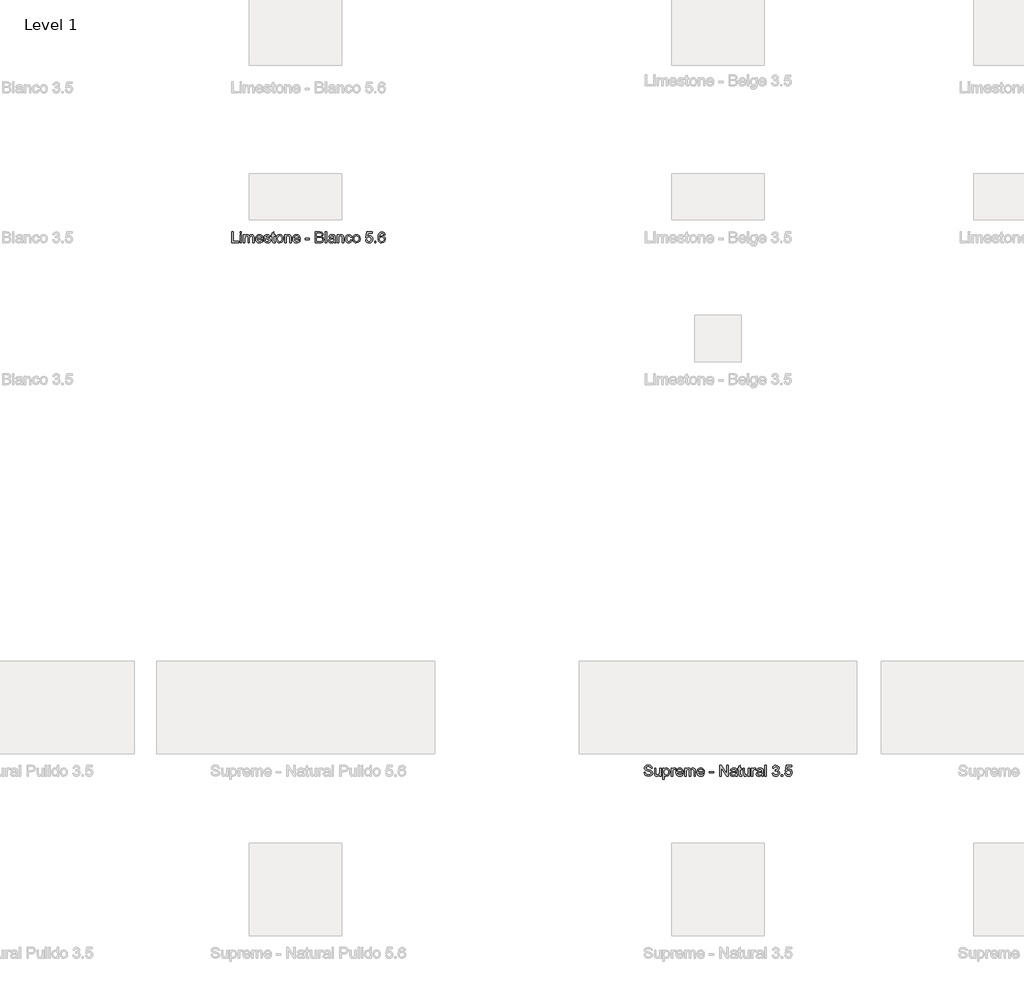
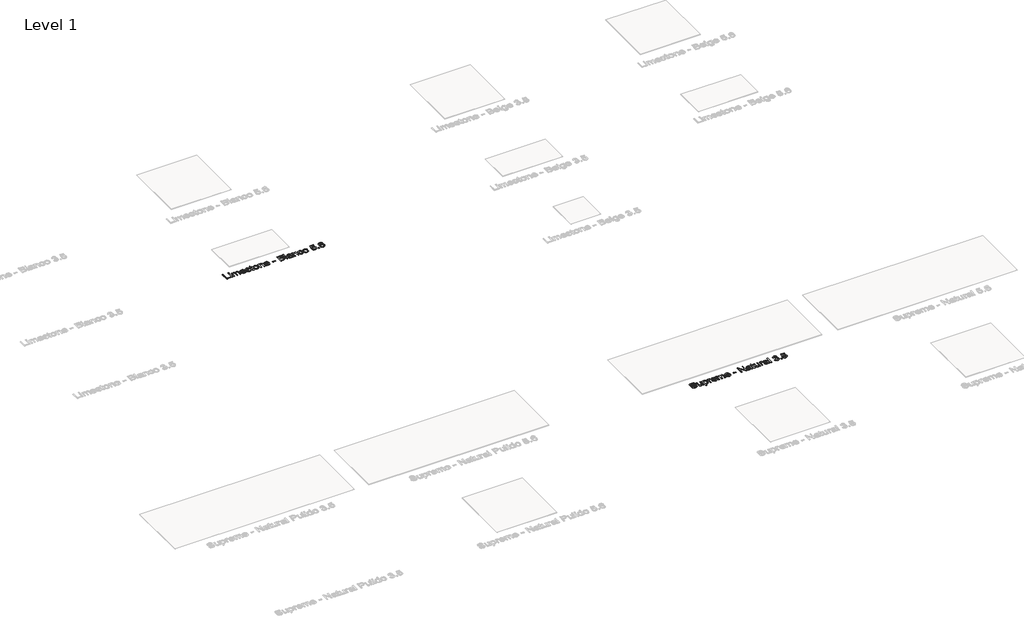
# One storey, part 65 of 80: 2 proxies.
"""IFC4 building model written with IfcOpenShell, lengths in millimetres."""

from ifc_helpers import new_model, si_unit, origin, origin_with_axes, place, context, project, spatial, polyline, outline, extrude, element, save

model = new_model("IFC4")

# Units and contexts
model_context = context("Model", 3, world=origin())
ifc_project = project(units=[si_unit("LENGTHUNIT", "METRE", prefix="MILLI")], contexts=[model_context])

# Site, building, storey
site = spatial("IfcSite", under=ifc_project)
building = spatial("IfcBuilding", under=site)
storey = spatial("IfcBuildingStorey", under=building, Name="Level 1", Elevation=0.0)

# Proxies
placement = place(None, origin())
element("IfcBuildingElementProxy", 1, Name="24\" Arial", ObjectType="24\" Arial", at=placement, inside=storey, context=model_context, shape_type="SweptSolid", body=[
    extrude(outline(polyline([(8085.846969, 7106.868207), (8085.846969, 7225.0220532), (8100.6161998, 7225.0220532), (8100.6161998, 7121.6374378), (8159.6931229, 7121.6374378), (8159.6931229, 7106.868207), (8085.846969, 7106.868207)])), origin_with_axes(), (0.0, 0.0, 1.0), 2.0),
    extrude(outline(polyline([(8174.4623536, 7210.2528224), (8174.4623536, 7225.0220532), (8189.2315844, 7225.0220532), (8189.2315844, 7210.2528224), (8174.4623536, 7210.2528224)])), origin_with_axes(), (0.0, 0.0, 1.0), 2.0),
    extrude(outline(polyline([(8174.4623536, 7106.868207), (8174.4623536, 7193.6374378), (8189.2315844, 7193.6374378), (8189.2315844, 7106.868207), (8174.4623536, 7106.868207)])), origin_with_axes(), (0.0, 0.0, 1.0), 2.0),
    extrude(outline(polyline([(8211.3854306, 7106.868207), (8211.3854306, 7193.6374378), (8226.1546613, 7193.6374378), (8226.1546613, 7179.3585916), (8236.3085075, 7191.055707), (8250.7604306, 7195.4835916), (8265.5585075, 7190.9691686), (8273.6931229, 7178.3201301), (8285.2171613, 7191.1927263), (8299.7700459, 7195.4835916), (8310.8722094, 7193.6987359), (8319.0825459, 7188.3441686), (8324.1558633, 7179.275659), (8325.846969, 7166.3489763), (8325.846969, 7106.868207), (8311.0777383, 7106.868207), (8311.0777383, 7160.0028224), (8309.7075459, 7172.3345532), (8304.7460075, 7178.4066686), (8296.3085075, 7180.7143609), (8288.3073056, 7179.2359955), (8281.784469, 7174.8008993), (8277.4467286, 7167.1061878), (8276.0008152, 7155.8489763), (8276.0008152, 7106.868207), (8261.2315844, 7106.868207), (8261.2315844, 7161.6470532), (8257.8133152, 7175.9547455), (8246.6065844, 7180.7143609), (8235.6738921, 7177.541284), (8228.4046613, 7168.2528224), (8226.1546613, 7150.6278224), (8226.1546613, 7106.868207), (8211.3854306, 7106.868207)])), origin_with_axes(), (0.0, 0.0, 1.0), 2.0),
    extrude(outline(polyline([(8408.7508152, 7132.7143609), (8423.2315844, 7130.868207), (8418.0140363, 7119.9571493), (8409.6883152, 7111.8008993), (8398.4419209, 7106.7167647), (8384.4623536, 7105.0220532), (8367.1330267, 7107.946332), (8353.7988921, 7116.7191686), (8345.2964883, 7130.7708513), (8342.4623536, 7149.5316686), (8345.3253344, 7168.9234955), (8353.9142767, 7183.4258993), (8367.0681229, 7192.4691686), (8383.6258152, 7195.4835916), (8399.6678825, 7192.4763801), (8412.4863921, 7183.4547455), (8420.8914402, 7168.9811878), (8423.6931229, 7149.618207), (8423.6065844, 7145.6374378), (8357.2315844, 7145.6374378), (8359.7880748, 7134.5821493), (8365.7267767, 7126.4547455), (8374.2976902, 7121.4571493), (8384.7508152, 7119.791284), (8399.2315844, 7122.8778224), (8408.7508152, 7132.7143609)]), holes=[polyline([(8357.2315844, 7160.4066686), (8408.9238921, 7160.4066686), (8403.0104306, 7173.791284), (8394.3998536, 7178.9835916), (8383.5681229, 7180.7143609), (8365.3806229, 7175.1903224), (8359.6582671, 7168.7323897), (8357.2315844, 7160.4066686)])]), origin_with_axes(), (0.0, 0.0, 1.0), 2.0),
    extrude(outline(polyline([(8432.9238921, 7132.7143609), (8447.6931229, 7134.5605147), (8454.5296613, 7123.5989763), (8470.1931229, 7119.791284), (8485.2508152, 7123.2816686), (8490.1546613, 7131.4739763), (8485.221969, 7138.1085916), (8470.0200459, 7142.3201301), (8447.7796613, 7149.5460916), (8438.0729306, 7157.9835916), (8434.7700459, 7169.8970532), (8437.4238921, 7180.9018609), (8444.6642767, 7189.3105147), (8454.0536998, 7193.680707), (8466.7604306, 7195.4835916), (8484.7315844, 7192.5845532), (8496.1546613, 7184.7383993), (8501.2315844, 7171.4835916), (8486.4623536, 7169.6374378), (8480.909469, 7177.7864763), (8467.9142767, 7180.7143609), (8453.7796613, 7177.916284), (8449.5392767, 7171.3970532), (8451.2988921, 7167.0989763), (8456.8085075, 7163.8393609), (8469.5296613, 7160.6951301), (8491.2075459, 7153.743207), (8501.2748536, 7145.868207), (8504.9238921, 7133.0316686), (8500.6402383, 7118.8970532), (8488.2796613, 7108.6422455), (8469.9911998, 7105.0220532), (8455.0993729, 7106.7672455), (8444.2315844, 7112.0028224), (8436.9767767, 7120.6710916), (8432.9238921, 7132.7143609)])), origin_with_axes(), (0.0, 0.0, 1.0), 2.0),
    extrude(outline(polyline([(8552.9238921, 7119.1855147), (8554.7700459, 7106.4355147), (8543.721969, 7105.0220532), (8531.346969, 7107.4739763), (8525.1738921, 7113.9066686), (8523.3854306, 7130.666284), (8523.3854306, 7178.868207), (8512.3085075, 7178.868207), (8512.3085075, 7193.6374378), (8523.3854306, 7193.6374378), (8523.3854306, 7214.7239763), (8538.1546613, 7223.4066686), (8538.1546613, 7193.6374378), (8552.9238921, 7193.6374378), (8552.9238921, 7178.868207), (8538.1546613, 7178.868207), (8538.1546613, 7131.0989763), (8538.9335075, 7123.4835916), (8541.4575459, 7120.7864763), (8546.4911998, 7119.791284), (8552.9238921, 7119.1855147)])), origin_with_axes(), (0.0, 0.0, 1.0), 2.0),
    extrude(outline(polyline([(8564.0008152, 7150.2528224), (8567.1955267, 7171.1734955), (8576.7796613, 7185.8778224), (8588.6210075, 7193.0821493), (8602.7988921, 7195.4835916), (8618.3145171, 7192.5593128), (8630.7075459, 7183.7864763), (8638.831344, 7169.8573897), (8641.5392767, 7151.4643609), (8636.7508152, 7125.1855147), (8622.8036998, 7110.3153224), (8602.7988921, 7105.0220532), (8587.0957671, 7107.9355147), (8574.7171613, 7116.6758993), (8566.6799017, 7130.8970532), (8564.0008152, 7150.2528224)]), holes=[polyline([(8578.7700459, 7150.2816686), (8580.4791806, 7136.915082), (8585.6065844, 7127.3922455), (8593.3229306, 7121.6915243), (8602.7988921, 7119.791284), (8612.2315844, 7121.7023416), (8619.9335075, 7127.4355147), (8625.0609113, 7137.0845532), (8626.7700459, 7150.743207), (8625.050094, 7163.7203705), (8619.8902383, 7173.1133993), (8612.1774979, 7178.8141205), (8602.7988921, 7180.7143609), (8593.3229306, 7178.821332), (8585.6065844, 7173.1422455), (8580.4791806, 7163.6410436), (8578.7700459, 7150.2816686)])]), origin_with_axes(), (0.0, 0.0, 1.0), 2.0),
    extrude(outline(polyline([(8658.1546613, 7106.868207), (8658.1546613, 7193.6374378), (8672.9238921, 7193.6374378), (8672.9238921, 7181.5220532), (8684.2171613, 7191.993207), (8699.6354306, 7195.4835916), (8713.5825459, 7192.6710916), (8723.1017767, 7185.2864763), (8727.5296613, 7174.4258993), (8728.3085075, 7160.1470532), (8728.3085075, 7106.868207), (8713.5392767, 7106.868207), (8713.5392767, 7158.1566686), (8711.8373536, 7171.2239763), (8705.8229306, 7178.1326301), (8695.6835075, 7180.7143609), (8679.659469, 7174.916284), (8674.6077863, 7166.5148416), (8672.9238921, 7152.9066686), (8672.9238921, 7106.868207), (8658.1546613, 7106.868207)])), origin_with_axes(), (0.0, 0.0, 1.0), 2.0),
    extrude(outline(polyline([(8809.3661998, 7132.7143609), (8823.846969, 7130.868207), (8818.6294209, 7119.9571493), (8810.3036998, 7111.8008993), (8799.0573056, 7106.7167647), (8785.0777383, 7105.0220532), (8767.7484113, 7107.946332), (8754.4142767, 7116.7191686), (8745.9118729, 7130.7708513), (8743.0777383, 7149.5316686), (8745.940719, 7168.9234955), (8754.5296613, 7183.4258993), (8767.6835075, 7192.4691686), (8784.2411998, 7195.4835916), (8800.2832671, 7192.4763801), (8813.1017767, 7183.4547455), (8821.5068248, 7168.9811878), (8824.3085075, 7149.618207), (8824.221969, 7145.6374378), (8757.846969, 7145.6374378), (8760.4034594, 7134.5821493), (8766.3421613, 7126.4547455), (8774.9130748, 7121.4571493), (8785.3661998, 7119.791284), (8799.846969, 7122.8778224), (8809.3661998, 7132.7143609)]), holes=[polyline([(8757.846969, 7160.4066686), (8809.5392767, 7160.4066686), (8803.6258152, 7173.791284), (8795.0152383, 7178.9835916), (8784.1835075, 7180.7143609), (8765.9960075, 7175.1903224), (8760.2736517, 7168.7323897), (8757.846969, 7160.4066686)])]), origin_with_axes(), (0.0, 0.0, 1.0), 2.0),
    extrude(outline(polyline([(8877.846969, 7141.9451301), (8877.846969, 7156.7143609), (8924.0008152, 7156.7143609), (8924.0008152, 7141.9451301), (8877.846969, 7141.9451301)])), origin_with_axes(), (0.0, 0.0, 1.0), 2.0),
    extrude(outline(polyline([(8988.6161998, 7106.868207), (8988.6161998, 7225.0220532), (9033.7027383, 7225.0220532), (9055.784469, 7221.5460916), (9068.8229306, 7210.8585916), (9073.5392767, 7195.743207), (9069.5729306, 7181.9403224), (9057.5873536, 7171.4835916), (9072.1402383, 7160.4643609), (9077.2315844, 7142.0893609), (9073.7556229, 7126.2095532), (9065.1450459, 7114.9018609), (9052.2940844, 7108.9018609), (9033.3565844, 7106.868207), (8988.6161998, 7106.868207)]), holes=[polyline([(9003.3854306, 7121.6374378), (9033.6738921, 7121.6374378), (9044.6354306, 7122.2143609), (9053.909469, 7125.430707), (9060.0536998, 7131.993207), (9062.4623536, 7141.9451301), (9059.6354306, 7153.4258993), (9050.4767767, 7160.2768609), (9032.2315844, 7162.2528224), (9003.3854306, 7162.2528224), (9003.3854306, 7121.6374378)]), polyline([(9003.3854306, 7177.0220532), (9030.3565844, 7177.0220532), (9046.1065844, 7178.291284), (9055.5825459, 7183.7576301), (9058.7700459, 7193.3778224), (9055.7988921, 7203.0124378), (9047.2892767, 7208.7095532), (9028.3085075, 7210.2528224), (9003.3854306, 7210.2528224), (9003.3854306, 7177.0220532)])]), origin_with_axes(), (0.0, 0.0, 1.0), 2.0),
    extrude(outline(polyline([(9095.6931229, 7106.868207), (9095.6931229, 7225.0220532), (9110.4623536, 7225.0220532), (9110.4623536, 7106.868207), (9095.6931229, 7106.868207)])), origin_with_axes(), (0.0, 0.0, 1.0), 2.0),
    extrude(outline(polyline([(9188.0008152, 7117.9451301), (9173.6786998, 7107.9355147), (9157.8565844, 7105.0220532), (9145.5140363, 7106.774457), (9136.409469, 7112.0316686), (9130.7952863, 7120.0148416), (9128.9238921, 7129.9451301), (9131.7508152, 7141.6278224), (9139.1786998, 7150.1085916), (9149.5200459, 7154.9547455), (9162.2988921, 7157.1758993), (9187.9142767, 7162.2528224), (9188.0008152, 7165.541284), (9183.9335075, 7176.4451301), (9167.6065844, 7180.7143609), (9152.6642767, 7177.8730147), (9145.5392767, 7167.791284), (9130.7700459, 7169.6374378), (9137.159469, 7184.0605147), (9150.0248536, 7192.5124378), (9169.5104306, 7195.4835916), (9187.409469, 7192.8585916), (9197.5200459, 7186.2672455), (9202.0488921, 7176.243207), (9202.7700459, 7163.3201301), (9202.7700459, 7144.9451301), (9203.5200459, 7119.2864763), (9206.4623536, 7106.868207), (9191.6931229, 7106.868207), (9188.0008152, 7117.9451301)]), holes=[polyline([(9188.0008152, 7147.4835916), (9164.1738921, 7142.9547455), (9151.4671613, 7140.5605147), (9145.7123536, 7136.666284), (9143.6931229, 7130.9835916), (9148.0921613, 7122.993207), (9161.0008152, 7119.791284), (9175.9431229, 7123.3249378), (9185.5777383, 7131.8778224), (9187.9142767, 7143.3008993), (9188.0008152, 7147.4835916)])]), origin_with_axes(), (0.0, 0.0, 1.0), 2.0),
    extrude(outline(polyline([(9223.0777383, 7106.868207), (9223.0777383, 7193.6374378), (9237.846969, 7193.6374378), (9237.846969, 7181.5220532), (9249.1402383, 7191.993207), (9264.5585075, 7195.4835916), (9278.5056229, 7192.6710916), (9288.0248536, 7185.2864763), (9292.4527383, 7174.4258993), (9293.2315844, 7160.1470532), (9293.2315844, 7106.868207), (9278.4623536, 7106.868207), (9278.4623536, 7158.1566686), (9276.7604306, 7171.2239763), (9270.7460075, 7178.1326301), (9260.6065844, 7180.7143609), (9244.5825459, 7174.916284), (9239.5308633, 7166.5148416), (9237.846969, 7152.9066686), (9237.846969, 7106.868207), (9223.0777383, 7106.868207)])), origin_with_axes(), (0.0, 0.0, 1.0), 2.0),
    extrude(outline(polyline([(9368.9238921, 7138.2528224), (9383.6931229, 7136.4066686), (9379.5753344, 7123.2708513), (9371.8373536, 7113.3441686), (9361.2075459, 7107.102582), (9348.4142767, 7105.0220532), (9332.7039402, 7107.9246974), (9320.4190844, 7116.6326301), (9312.4899979, 7130.7636397), (9309.846969, 7149.9355147), (9314.3613921, 7174.4691686), (9320.0585075, 7183.6674859), (9328.1210075, 7190.2335916), (9348.2123536, 7195.4835916), (9360.6919209, 7193.680707), (9370.6690844, 7188.2720532), (9377.8265363, 7179.5460916), (9381.846969, 7167.791284), (9367.0777383, 7165.9451301), (9360.2267767, 7177.0076301), (9348.3277383, 7180.7143609), (9338.7832671, 7178.8898416), (9331.2075459, 7173.416284), (9326.2640363, 7163.9980147), (9324.6161998, 7150.3393609), (9326.2279786, 7136.4968128), (9331.0633152, 7127.0460916), (9338.5020171, 7121.6049859), (9347.9238921, 7119.791284), (9361.8421613, 7124.3201301), (9368.9238921, 7138.2528224)])), origin_with_axes(), (0.0, 0.0, 1.0), 2.0),
    extrude(outline(polyline([(9392.9238921, 7150.2528224), (9396.1186036, 7171.1734955), (9405.7027383, 7185.8778224), (9417.5440844, 7193.0821493), (9431.721969, 7195.4835916), (9447.237594, 7192.5593128), (9459.6306229, 7183.7864763), (9467.7544209, 7169.8573897), (9470.4623536, 7151.4643609), (9465.6738921, 7125.1855147), (9451.7267767, 7110.3153224), (9431.721969, 7105.0220532), (9416.018844, 7107.9355147), (9403.6402383, 7116.6758993), (9395.6029786, 7130.8970532), (9392.9238921, 7150.2528224)]), holes=[polyline([(9407.6931229, 7150.2816686), (9409.4022575, 7136.915082), (9414.5296613, 7127.3922455), (9422.2460075, 7121.6915243), (9431.721969, 7119.791284), (9441.1546613, 7121.7023416), (9448.8565844, 7127.4355147), (9453.9839883, 7137.0845532), (9455.6931229, 7150.743207), (9453.9731709, 7163.7203705), (9448.8133152, 7173.1133993), (9441.1005748, 7178.8141205), (9431.721969, 7180.7143609), (9422.2460075, 7178.821332), (9414.5296613, 7173.1422455), (9409.4022575, 7163.6410436), (9407.6931229, 7150.2816686)])]), origin_with_axes(), (0.0, 0.0, 1.0), 2.0),
    extrude(outline(polyline([(9529.5392767, 7138.2528224), (9544.3085075, 7140.0989763), (9551.7508152, 7124.8826301), (9567.1835075, 7119.791284), (9577.7700459, 7121.5617166), (9585.7027383, 7126.8730147), (9590.6570652, 7135.1121974), (9592.3085075, 7145.666284), (9590.7616325, 7155.603784), (9586.1210075, 7163.2047455), (9578.3505748, 7168.0292647), (9567.4142767, 7169.6374378), (9554.4479306, 7167.0701301), (9546.1546613, 7160.4066686), (9531.3854306, 7162.2528224), (9544.3085075, 7223.1758993), (9601.5392767, 7223.1758993), (9601.5392767, 7208.4066686), (9556.2508152, 7208.4066686), (9549.9335075, 7175.868207), (9560.4839883, 7182.2720532), (9571.5392767, 7184.4066686), (9585.3385556, 7181.760034), (9596.7940844, 7173.8201301), (9604.5068248, 7161.7191686), (9607.0777383, 7146.5893609), (9604.7628344, 7131.8201301), (9597.8181229, 7119.1855147), (9584.5200459, 7108.5629186), (9567.1258152, 7105.0220532), (9552.6198056, 7107.2972936), (9541.0633152, 7114.1230147), (9533.1414402, 7124.7059474), (9529.5392767, 7138.2528224)])), origin_with_axes(), (0.0, 0.0, 1.0), 2.0),
    extrude(outline(polyline([(9627.3854306, 7106.868207), (9627.3854306, 7121.6374378), (9642.1546613, 7121.6374378), (9642.1546613, 7106.868207), (9627.3854306, 7106.868207)])), origin_with_axes(), (0.0, 0.0, 1.0), 2.0),
    extrude(outline(polyline([(9741.846969, 7193.6374378), (9727.0777383, 7191.791284), (9721.4815844, 7204.1085916), (9714.7820652, 7208.7167647), (9706.6835075, 7210.2528224), (9693.3565844, 7206.6758993), (9683.2748536, 7193.2480147), (9679.0777383, 7166.9258993), (9692.1017767, 7178.7095532), (9708.2411998, 7182.5605147), (9721.8854306, 7179.9283032), (9733.3373536, 7172.0316686), (9741.1041806, 7159.9667647), (9743.6931229, 7144.8297455), (9738.8181229, 7124.4499378), (9725.4046613, 7110.0268609), (9706.0488921, 7105.0220532), (9689.2928825, 7108.3393609), (9675.9479306, 7118.291284), (9667.2183633, 7135.8585916), (9664.3085075, 7162.0220532), (9667.5392767, 7191.4379186), (9677.2315844, 7211.5508993), (9690.4647575, 7221.6542647), (9707.6065844, 7225.0220532), (9720.565719, 7222.9379186), (9730.9431229, 7216.6855147), (9738.2123536, 7206.7552263), (9741.846969, 7193.6374378)]), holes=[polyline([(9679.0777383, 7145.0605147), (9682.4960075, 7132.2672455), (9691.5825459, 7122.978784), (9704.8950459, 7119.791284), (9714.6414402, 7121.4427263), (9722.3036998, 7126.3970532), (9727.268844, 7134.1855147), (9728.9238921, 7144.3393609), (9727.2904786, 7154.0857551), (9722.3902383, 7161.5172455), (9714.5981709, 7166.2227743), (9704.2892767, 7167.791284), (9694.5573056, 7166.2227743), (9686.4190844, 7161.5172455), (9680.9130748, 7154.2660436), (9679.0777383, 7145.0605147)])]), origin_with_axes(), (0.0, 0.0, 1.0), 2.0),
])
element("IfcBuildingElementProxy", 2, Name="24\" Arial", ObjectType="24\" Arial", at=placement, inside=storey, context=model_context, shape_type="SweptSolid", body=[
    extrude(outline(polyline([(12536.0008152, 1389.3439467), (12550.7700459, 1389.3439467), (12555.5296613, 1374.5602928), (12567.1546613, 1365.214139), (12584.8661998, 1361.651639), (12600.2988921, 1364.3487544), (12610.2652383, 1371.7622159), (12613.5392767, 1381.6708697), (12611.0873536, 1390.8872159), (12601.0488921, 1397.5939467), (12579.5440844, 1403.2333697), (12556.3950459, 1410.5170236), (12543.8325459, 1421.5074082), (12539.6931229, 1436.1901005), (12544.8133152, 1452.9064467), (12559.7700459, 1464.7045236), (12581.6642767, 1468.728562), (12605.0296613, 1464.5170236), (12620.6065844, 1452.1420236), (12626.4623536, 1433.651639), (12611.6931229, 1433.651639), (12608.9815844, 1442.464139), (12603.3277383, 1448.8247159), (12594.4936036, 1452.6756774), (12582.2411998, 1453.9593313), (12569.7003344, 1452.6901005), (12561.096969, 1448.8824082), (12556.1210075, 1443.2790428), (12554.4623536, 1436.6227928), (12559.1642767, 1426.3824082), (12583.2796613, 1418.1324082), (12609.4142767, 1410.7189467), (12623.7075459, 1398.7477928), (12628.3085075, 1382.0458697), (12623.0152383, 1364.3776005), (12607.784469, 1351.4833697), (12585.4431229, 1346.8824082), (12559.0633152, 1351.8439467), (12549.5765363, 1358.0602928), (12542.3758152, 1366.7862544), (12536.0008152, 1389.3439467)])), origin_with_axes(), (0.0, 0.0, 1.0), 2.0),
    extrude(outline(polyline([(12704.0008152, 1348.728562), (12704.0008152, 1363.6420236), (12692.4335075, 1351.072312), (12677.346969, 1346.8824082), (12663.4575459, 1349.8247159), (12653.8806229, 1357.2093313), (12649.4815844, 1368.0843313), (12648.6161998, 1381.8151005), (12648.6161998, 1435.4977928), (12663.3854306, 1435.4977928), (12663.3854306, 1388.7670236), (12664.2796613, 1373.7093313), (12670.1210075, 1364.8679851), (12681.1258152, 1361.651639), (12693.4575459, 1364.9401005), (12701.6065844, 1373.8968313), (12704.0008152, 1390.353562), (12704.0008152, 1435.4977928), (12718.7700459, 1435.4977928), (12718.7700459, 1348.728562), (12704.0008152, 1348.728562)])), origin_with_axes(), (0.0, 0.0, 1.0), 2.0),
    extrude(outline(polyline([(12739.0777383, 1315.4977928), (12739.0777383, 1435.4977928), (12753.846969, 1435.4977928), (12753.846969, 1421.0170236), (12764.0585075, 1433.2622159), (12777.846969, 1437.3439467), (12796.5681229, 1431.6324082), (12808.7988921, 1415.5362544), (12812.9238921, 1392.776639), (12808.2652383, 1368.8487544), (12802.5536998, 1359.4593313), (12794.7363921, 1352.5506774), (12776.0585075, 1346.8824082), (12763.2075459, 1350.6756774), (12753.846969, 1360.2670236), (12753.846969, 1315.4977928), (12739.0777383, 1315.4977928)]), holes=[polyline([(12753.846969, 1391.4208697), (12755.4443248, 1378.1804851), (12760.2363921, 1368.9208697), (12767.3073056, 1363.4689467), (12775.7411998, 1361.651639), (12784.3121133, 1363.5338505), (12791.5633152, 1369.1804851), (12796.5068248, 1378.7790428), (12798.1546613, 1392.5170236), (12796.5464883, 1405.6852928), (12791.721969, 1415.0747159), (12784.6618729, 1420.6997159), (12776.346969, 1422.5747159), (12767.9996133, 1420.5807255), (12760.6690844, 1414.5987544), (12755.5524979, 1404.8163024), (12753.846969, 1391.4208697)])]), origin_with_axes(), (0.0, 0.0, 1.0), 2.0),
    extrude(outline(polyline([(12829.5392767, 1348.728562), (12829.5392767, 1435.4977928), (12842.4623536, 1435.4977928), (12842.4623536, 1422.6612544), (12851.6354306, 1434.4881774), (12860.8661998, 1437.3439467), (12875.6931229, 1432.7862544), (12870.7604306, 1419.5458697), (12860.3758152, 1422.5747159), (12852.0248536, 1419.6612544), (12846.7027383, 1411.5843313), (12844.3085075, 1394.3343313), (12844.3085075, 1348.728562), (12829.5392767, 1348.728562)])), origin_with_axes(), (0.0, 0.0, 1.0), 2.0),
    extrude(outline(polyline([(12945.6738921, 1374.5747159), (12960.1546613, 1372.728562), (12954.9371133, 1361.8175044), (12946.6113921, 1353.6612544), (12935.3649979, 1348.5771197), (12921.3854306, 1346.8824082), (12904.0561036, 1349.806687), (12890.721969, 1358.5795236), (12882.2195652, 1372.6312063), (12879.3854306, 1391.3920236), (12882.2484113, 1410.7838505), (12890.8373536, 1425.2862544), (12903.9911998, 1434.3295236), (12920.5488921, 1437.3439467), (12936.5909594, 1434.3367351), (12949.409469, 1425.3151005), (12957.8145171, 1410.8415428), (12960.6161998, 1391.478562), (12960.5296613, 1387.4977928), (12894.1546613, 1387.4977928), (12896.7111517, 1376.4425044), (12902.6498536, 1368.3151005), (12911.2207671, 1363.3175044), (12921.6738921, 1361.651639), (12936.1546613, 1364.7381774), (12945.6738921, 1374.5747159)]), holes=[polyline([(12894.1546613, 1402.2670236), (12945.846969, 1402.2670236), (12939.9335075, 1415.651639), (12931.3229306, 1420.8439467), (12920.4911998, 1422.5747159), (12902.3036998, 1417.0506774), (12896.581344, 1410.5927447), (12894.1546613, 1402.2670236)])]), origin_with_axes(), (0.0, 0.0, 1.0), 2.0),
    extrude(outline(polyline([(12975.3854306, 1348.728562), (12975.3854306, 1435.4977928), (12990.1546613, 1435.4977928), (12990.1546613, 1421.2189467), (13000.3085075, 1432.916062), (13014.7604306, 1437.3439467), (13029.5585075, 1432.8295236), (13037.6931229, 1420.1804851), (13049.2171613, 1433.0530813), (13063.7700459, 1437.3439467), (13074.8722094, 1435.5590909), (13083.0825459, 1430.2045236), (13088.1558633, 1421.136014), (13089.846969, 1408.2093313), (13089.846969, 1348.728562), (13075.0777383, 1348.728562), (13075.0777383, 1401.8631774), (13073.7075459, 1414.1949082), (13068.7460075, 1420.2670236), (13060.3085075, 1422.5747159), (13052.3073056, 1421.0963505), (13045.784469, 1416.6612544), (13041.4467286, 1408.9665428), (13040.0008152, 1397.7093313), (13040.0008152, 1348.728562), (13025.2315844, 1348.728562), (13025.2315844, 1403.5074082), (13021.8133152, 1417.8151005), (13010.6065844, 1422.5747159), (12999.6738921, 1419.401639), (12992.4046613, 1410.1131774), (12990.1546613, 1392.4881774), (12990.1546613, 1348.728562), (12975.3854306, 1348.728562)])), origin_with_axes(), (0.0, 0.0, 1.0), 2.0),
    extrude(outline(polyline([(13172.7508152, 1374.5747159), (13187.2315844, 1372.728562), (13182.0140363, 1361.8175044), (13173.6883152, 1353.6612544), (13162.4419209, 1348.5771197), (13148.4623536, 1346.8824082), (13131.1330267, 1349.806687), (13117.7988921, 1358.5795236), (13109.2964883, 1372.6312063), (13106.4623536, 1391.3920236), (13109.3253344, 1410.7838505), (13117.9142767, 1425.2862544), (13131.0681229, 1434.3295236), (13147.6258152, 1437.3439467), (13163.6678825, 1434.3367351), (13176.4863921, 1425.3151005), (13184.8914402, 1410.8415428), (13187.6931229, 1391.478562), (13187.6065844, 1387.4977928), (13121.2315844, 1387.4977928), (13123.7880748, 1376.4425044), (13129.7267767, 1368.3151005), (13138.2976902, 1363.3175044), (13148.7508152, 1361.651639), (13163.2315844, 1364.7381774), (13172.7508152, 1374.5747159)]), holes=[polyline([(13121.2315844, 1402.2670236), (13172.9238921, 1402.2670236), (13167.0104306, 1415.651639), (13158.3998536, 1420.8439467), (13147.5681229, 1422.5747159), (13129.3806229, 1417.0506774), (13123.6582671, 1410.5927447), (13121.2315844, 1402.2670236)])]), origin_with_axes(), (0.0, 0.0, 1.0), 2.0),
    extrude(outline(polyline([(13241.2315844, 1383.8054851), (13241.2315844, 1398.5747159), (13287.3854306, 1398.5747159), (13287.3854306, 1383.8054851), (13241.2315844, 1383.8054851)])), origin_with_axes(), (0.0, 0.0, 1.0), 2.0),
    extrude(outline(polyline([(13352.0008152, 1348.728562), (13352.0008152, 1466.8824082), (13367.8085075, 1466.8824082), (13429.5392767, 1373.276639), (13429.5392767, 1466.8824082), (13444.3085075, 1466.8824082), (13444.3085075, 1348.728562), (13428.5008152, 1348.728562), (13366.7700459, 1442.3631774), (13366.7700459, 1348.728562), (13352.0008152, 1348.728562)])), origin_with_axes(), (0.0, 0.0, 1.0), 2.0),
    extrude(outline(polyline([(13523.6931229, 1359.8054851), (13509.3710075, 1349.7958697), (13493.5488921, 1346.8824082), (13481.206344, 1348.634812), (13472.1017767, 1353.8920236), (13466.487594, 1361.8751967), (13464.6161998, 1371.8054851), (13467.4431229, 1383.4881774), (13474.8710075, 1391.9689467), (13485.2123536, 1396.8151005), (13497.9911998, 1399.0362544), (13523.6065844, 1404.1131774), (13523.6931229, 1407.401639), (13519.6258152, 1418.3054851), (13503.2988921, 1422.5747159), (13488.3565844, 1419.7333697), (13481.2315844, 1409.651639), (13466.4623536, 1411.4977928), (13472.8517767, 1425.9208697), (13485.7171613, 1434.3727928), (13505.2027383, 1437.3439467), (13523.1017767, 1434.7189467), (13533.2123536, 1428.1276005), (13537.7411998, 1418.103562), (13538.4623536, 1405.1804851), (13538.4623536, 1386.8054851), (13539.2123536, 1361.1468313), (13542.1546613, 1348.728562), (13527.3854306, 1348.728562), (13523.6931229, 1359.8054851)]), holes=[polyline([(13523.6931229, 1389.3439467), (13499.8661998, 1384.8151005), (13487.159469, 1382.4208697), (13481.4046613, 1378.526639), (13479.3854306, 1372.8439467), (13483.784469, 1364.853562), (13496.6931229, 1361.651639), (13511.6354306, 1365.1852928), (13521.2700459, 1373.7381774), (13523.6065844, 1385.1612544), (13523.6931229, 1389.3439467)])]), origin_with_axes(), (0.0, 0.0, 1.0), 2.0),
    extrude(outline(polyline([(13590.1546613, 1361.0458697), (13592.0008152, 1348.2958697), (13580.9527383, 1346.8824082), (13568.5777383, 1349.3343313), (13562.4046613, 1355.7670236), (13560.6161998, 1372.526639), (13560.6161998, 1420.728562), (13549.5392767, 1420.728562), (13549.5392767, 1435.4977928), (13560.6161998, 1435.4977928), (13560.6161998, 1456.5843313), (13575.3854306, 1465.2670236), (13575.3854306, 1435.4977928), (13590.1546613, 1435.4977928), (13590.1546613, 1420.728562), (13575.3854306, 1420.728562), (13575.3854306, 1372.9593313), (13576.1642767, 1365.3439467), (13578.6883152, 1362.6468313), (13583.721969, 1361.651639), (13590.1546613, 1361.0458697)])), origin_with_axes(), (0.0, 0.0, 1.0), 2.0),
    extrude(outline(polyline([(13660.3085075, 1348.728562), (13660.3085075, 1363.6420236), (13648.7411998, 1351.072312), (13633.6546613, 1346.8824082), (13619.7652383, 1349.8247159), (13610.1883152, 1357.2093313), (13605.7892767, 1368.0843313), (13604.9238921, 1381.8151005), (13604.9238921, 1435.4977928), (13619.6931229, 1435.4977928), (13619.6931229, 1388.7670236), (13620.5873536, 1373.7093313), (13626.4286998, 1364.8679851), (13637.4335075, 1361.651639), (13649.7652383, 1364.9401005), (13657.9142767, 1373.8968313), (13660.3085075, 1390.353562), (13660.3085075, 1435.4977928), (13675.0777383, 1435.4977928), (13675.0777383, 1348.728562), (13660.3085075, 1348.728562)])), origin_with_axes(), (0.0, 0.0, 1.0), 2.0),
    extrude(outline(polyline([(13695.3854306, 1348.728562), (13695.3854306, 1435.4977928), (13708.3085075, 1435.4977928), (13708.3085075, 1422.6612544), (13717.4815844, 1434.4881774), (13726.7123536, 1437.3439467), (13741.5392767, 1432.7862544), (13736.6065844, 1419.5458697), (13726.221969, 1422.5747159), (13717.8710075, 1419.6612544), (13712.5488921, 1411.5843313), (13710.1546613, 1394.3343313), (13710.1546613, 1348.728562), (13695.3854306, 1348.728562)])), origin_with_axes(), (0.0, 0.0, 1.0), 2.0),
    extrude(outline(polyline([(13806.1546613, 1359.8054851), (13791.8325459, 1349.7958697), (13776.0104306, 1346.8824082), (13763.6678825, 1348.634812), (13754.5633152, 1353.8920236), (13748.9491325, 1361.8751967), (13747.0777383, 1371.8054851), (13749.9046613, 1383.4881774), (13757.3325459, 1391.9689467), (13767.6738921, 1396.8151005), (13780.4527383, 1399.0362544), (13806.0681229, 1404.1131774), (13806.1546613, 1407.401639), (13802.0873536, 1418.3054851), (13785.7604306, 1422.5747159), (13770.8181229, 1419.7333697), (13763.6931229, 1409.651639), (13748.9238921, 1411.4977928), (13755.3133152, 1425.9208697), (13768.1786998, 1434.3727928), (13787.6642767, 1437.3439467), (13805.5633152, 1434.7189467), (13815.6738921, 1428.1276005), (13820.2027383, 1418.103562), (13820.9238921, 1405.1804851), (13820.9238921, 1386.8054851), (13821.6738921, 1361.1468313), (13824.6161998, 1348.728562), (13809.846969, 1348.728562), (13806.1546613, 1359.8054851)]), holes=[polyline([(13806.1546613, 1389.3439467), (13782.3277383, 1384.8151005), (13769.6210075, 1382.4208697), (13763.8661998, 1378.526639), (13761.846969, 1372.8439467), (13766.2460075, 1364.853562), (13779.1546613, 1361.651639), (13794.096969, 1365.1852928), (13803.7315844, 1373.7381774), (13806.0681229, 1385.1612544), (13806.1546613, 1389.3439467)])]), origin_with_axes(), (0.0, 0.0, 1.0), 2.0),
    extrude(outline(polyline([(13841.2315844, 1348.728562), (13841.2315844, 1466.8824082), (13856.0008152, 1466.8824082), (13856.0008152, 1348.728562), (13841.2315844, 1348.728562)])), origin_with_axes(), (0.0, 0.0, 1.0), 2.0),
    extrude(outline(polyline([(13920.6161998, 1380.1131774), (13935.3854306, 1381.9593313), (13943.534469, 1366.4112544), (13958.7796613, 1361.651639), (13968.9046613, 1363.2886582), (13976.721969, 1368.1997159), (13981.7195652, 1375.526639), (13983.3854306, 1384.4112544), (13981.7339883, 1392.8451486), (13976.7796613, 1399.6852928), (13969.2796613, 1404.2177447), (13959.9911998, 1405.728562), (13949.6354306, 1404.1131774), (13951.2796613, 1418.8824082), (13953.6450459, 1418.7093313), (13970.4046613, 1422.9497159), (13975.9863921, 1428.3295236), (13977.846969, 1435.9881774), (13972.4527383, 1447.541062), (13958.5488921, 1452.1131774), (13944.471969, 1447.4977928), (13937.2315844, 1433.651639), (13922.4623536, 1435.4977928), (13926.8109113, 1448.759812), (13934.5488921, 1458.6612544), (13945.1354306, 1464.8271197), (13958.0296613, 1466.8824082), (13975.8421613, 1462.8295236), (13988.3036998, 1451.7526005), (13992.6161998, 1436.853562), (13988.5200459, 1423.2381774), (13976.4046613, 1413.4593313), (13985.6498536, 1409.7237544), (13992.5008152, 1403.3631774), (13996.7411998, 1394.7237544), (13998.1546613, 1384.151639), (13995.3277383, 1369.7574082), (13986.846969, 1357.728562), (13974.0464883, 1349.5939467), (13958.2604306, 1346.8824082), (13943.9815844, 1349.197312), (13932.3565844, 1356.1420236), (13924.2724498, 1366.7646197), (13920.6161998, 1380.1131774)])), origin_with_axes(), (0.0, 0.0, 1.0), 2.0),
    extrude(outline(polyline([(14018.4623536, 1348.728562), (14018.4623536, 1363.4977928), (14033.2315844, 1363.4977928), (14033.2315844, 1348.728562), (14018.4623536, 1348.728562)])), origin_with_axes(), (0.0, 0.0, 1.0), 2.0),
    extrude(outline(polyline([(14057.2315844, 1380.1131774), (14072.0008152, 1381.9593313), (14079.4431229, 1366.7429851), (14094.8758152, 1361.651639), (14105.4623536, 1363.4220717), (14113.3950459, 1368.7333697), (14118.3493729, 1376.9725524), (14120.0008152, 1387.526639), (14118.4539402, 1397.464139), (14113.8133152, 1405.0651005), (14106.0428825, 1409.8896197), (14095.1065844, 1411.4977928), (14082.1402383, 1408.9304851), (14073.846969, 1402.2670236), (14059.0777383, 1404.1131774), (14072.0008152, 1465.0362544), (14129.2315844, 1465.0362544), (14129.2315844, 1450.2670236), (14083.9431229, 1450.2670236), (14077.6258152, 1417.728562), (14088.1762959, 1424.1324082), (14099.2315844, 1426.2670236), (14113.0308633, 1423.620389), (14124.4863921, 1415.6804851), (14132.1991325, 1403.5795236), (14134.7700459, 1388.4497159), (14132.4551421, 1373.6804851), (14125.5104306, 1361.0458697), (14112.2123536, 1350.4232736), (14094.8181229, 1346.8824082), (14080.3121133, 1349.1576486), (14068.7556229, 1355.9833697), (14060.8337479, 1366.5663024), (14057.2315844, 1380.1131774)])), origin_with_axes(), (0.0, 0.0, 1.0), 2.0),
])

save(model, "model.ifc")
